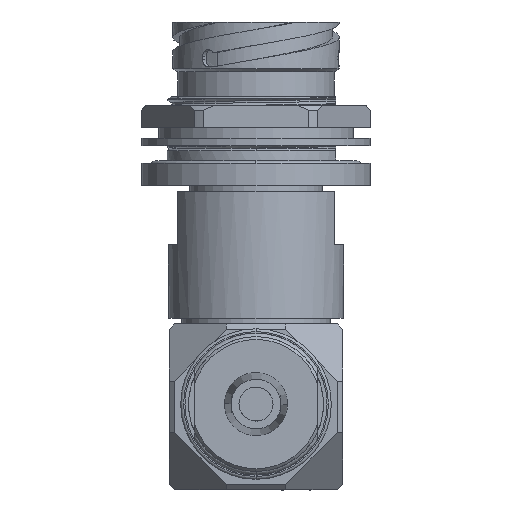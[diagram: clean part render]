
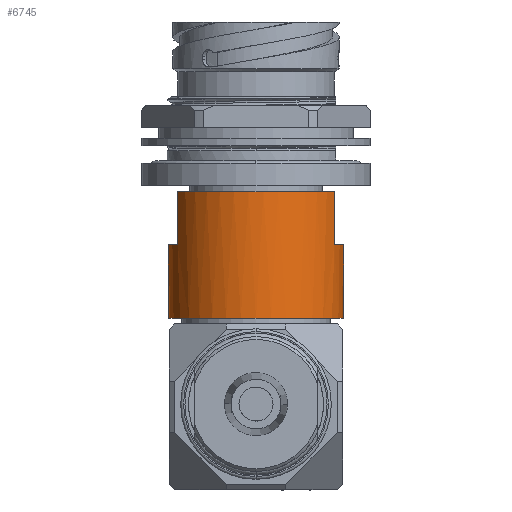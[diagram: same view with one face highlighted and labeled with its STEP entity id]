
A CAD part, front view. The second image highlights one B-rep face of the part: STEP entity #6745.
In plain terms, the highlighted cylindrical face has radius 15.684 mm (diameter 31.369 mm), a partial arc.
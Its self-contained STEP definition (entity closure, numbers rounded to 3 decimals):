
#357 = VERTEX_POINT ( 'NONE', #5871 ) ;
#393 = ORIENTED_EDGE ( 'NONE', *, *, #7592, .F. ) ;
#572 = AXIS2_PLACEMENT_3D ( 'NONE', #19090, #3402, #11187 ) ;
#676 = AXIS2_PLACEMENT_3D ( 'NONE', #3426, #17195, #9546 ) ;
#901 = CARTESIAN_POINT ( 'NONE',  ( -15.685, 0., -39.853 ) ) ;
#1090 = CIRCLE ( 'NONE', #9216, 15.684 ) ;
#1147 = LINE ( 'NONE', #8920, #24555 ) ;
#1453 = AXIS2_PLACEMENT_3D ( 'NONE', #5831, #15145, #21382 ) ;
#1471 = CIRCLE ( 'NONE', #2691, 15.685 ) ;
#2691 = AXIS2_PLACEMENT_3D ( 'NONE', #12306, #6324, #21869 ) ;
#3034 = CIRCLE ( 'NONE', #572, 15.685 ) ;
#3321 = EDGE_CURVE ( 'NONE', #18451, #9105, #3034, .T. ) ;
#3402 = DIRECTION ( 'NONE',  ( 0., 0., -1. ) ) ;
#3426 = CARTESIAN_POINT ( 'NONE',  ( 0., 0., -39.853 ) ) ;
#4288 = VECTOR ( 'NONE', #21531, 1000. ) ;
#4345 = CIRCLE ( 'NONE', #676, 15.685 ) ;
#4358 = ORIENTED_EDGE ( 'NONE', *, *, #9264, .F. ) ;
#5500 = CARTESIAN_POINT ( 'NONE',  ( -15.685, 0., -30.328 ) ) ;
#5514 = EDGE_CURVE ( 'NONE', #15330, #15980, #16060, .T. ) ;
#5567 = VECTOR ( 'NONE', #15445, 1000. ) ;
#5831 = CARTESIAN_POINT ( 'NONE',  ( 0., 0., -30.328 ) ) ;
#5871 = CARTESIAN_POINT ( 'NONE',  ( -14.033, -7.005, -39.853 ) ) ;
#6010 = LINE ( 'NONE', #5500, #5567 ) ;
#6228 = CARTESIAN_POINT ( 'NONE',  ( 14.033, -7.005, -30.328 ) ) ;
#6324 = DIRECTION ( 'NONE',  ( 0., 0., 1. ) ) ;
#6724 = ORIENTED_EDGE ( 'NONE', *, *, #9581, .T. ) ;
#6745 = ADVANCED_FACE ( 'NONE', ( #15276 ), #25203, .T. ) ;
#6965 = ORIENTED_EDGE ( 'NONE', *, *, #9295, .F. ) ;
#7298 = CARTESIAN_POINT ( 'NONE',  ( 14.033, -7.005, -39.853 ) ) ;
#7592 = EDGE_CURVE ( 'NONE', #19291, #15330, #1471, .T. ) ;
#8145 = CARTESIAN_POINT ( 'NONE',  ( 15.684, 0., -30.328 ) ) ;
#8920 = CARTESIAN_POINT ( 'NONE',  ( 14.033, -7.005, -30.328 ) ) ;
#9105 = VERTEX_POINT ( 'NONE', #14669 ) ;
#9216 = AXIS2_PLACEMENT_3D ( 'NONE', #9793, #17585, #18989 ) ;
#9264 = EDGE_CURVE ( 'NONE', #15980, #12016, #1090, .T. ) ;
#9295 = EDGE_CURVE ( 'NONE', #15278, #357, #4345, .T. ) ;
#9546 = DIRECTION ( 'NONE',  ( 0., 1., 0. ) ) ;
#9581 = EDGE_CURVE ( 'NONE', #15278, #12016, #6010, .T. ) ;
#9793 = CARTESIAN_POINT ( 'NONE',  ( 0., 0., -53.01 ) ) ;
#11187 = DIRECTION ( 'NONE',  ( 1., 0., 0. ) ) ;
#12016 = VERTEX_POINT ( 'NONE', #12271 ) ;
#12271 = CARTESIAN_POINT ( 'NONE',  ( -15.684, 0., -53.01 ) ) ;
#12306 = CARTESIAN_POINT ( 'NONE',  ( 0., 0., -39.853 ) ) ;
#13838 = CARTESIAN_POINT ( 'NONE',  ( 15.684, 0., -53.01 ) ) ;
#14060 = ORIENTED_EDGE ( 'NONE', *, *, #5514, .F. ) ;
#14611 = EDGE_CURVE ( 'NONE', #357, #9105, #18201, .T. ) ;
#14669 = CARTESIAN_POINT ( 'NONE',  ( -14.034, -7.005, -30.328 ) ) ;
#15145 = DIRECTION ( 'NONE',  ( 0., 0., -1. ) ) ;
#15276 = FACE_OUTER_BOUND ( 'NONE', #16370, .T. ) ;
#15278 = VERTEX_POINT ( 'NONE', #901 ) ;
#15330 = VERTEX_POINT ( 'NONE', #18768 ) ;
#15445 = DIRECTION ( 'NONE',  ( 0., 0., -1. ) ) ;
#15980 = VERTEX_POINT ( 'NONE', #13838 ) ;
#16060 = LINE ( 'NONE', #8145, #4288 ) ;
#16370 = EDGE_LOOP ( 'NONE', ( #6965, #6724, #4358, #14060, #393, #24647, #24485, #21653 ) ) ;
#17195 = DIRECTION ( 'NONE',  ( 0., 0., 1. ) ) ;
#17585 = DIRECTION ( 'NONE',  ( 0., 0., -1. ) ) ;
#17827 = DIRECTION ( 'NONE',  ( 0., 0., 1. ) ) ;
#18201 = LINE ( 'NONE', #19842, #22070 ) ;
#18451 = VERTEX_POINT ( 'NONE', #6228 ) ;
#18768 = CARTESIAN_POINT ( 'NONE',  ( 15.685, 0., -39.853 ) ) ;
#18989 = DIRECTION ( 'NONE',  ( 1., 0., 0. ) ) ;
#19090 = CARTESIAN_POINT ( 'NONE',  ( 0., 0., -30.328 ) ) ;
#19291 = VERTEX_POINT ( 'NONE', #7298 ) ;
#19842 = CARTESIAN_POINT ( 'NONE',  ( -14.033, -7.005, -30.328 ) ) ;
#20643 = DIRECTION ( 'NONE',  ( 0., 0., -1. ) ) ;
#21382 = DIRECTION ( 'NONE',  ( 1., 0., 0. ) ) ;
#21531 = DIRECTION ( 'NONE',  ( 0., 0., -1. ) ) ;
#21653 = ORIENTED_EDGE ( 'NONE', *, *, #14611, .F. ) ;
#21869 = DIRECTION ( 'NONE',  ( 1., 0., 0. ) ) ;
#21905 = EDGE_CURVE ( 'NONE', #18451, #19291, #1147, .T. ) ;
#22070 = VECTOR ( 'NONE', #17827, 1000. ) ;
#24485 = ORIENTED_EDGE ( 'NONE', *, *, #3321, .T. ) ;
#24555 = VECTOR ( 'NONE', #20643, 1000. ) ;
#24647 = ORIENTED_EDGE ( 'NONE', *, *, #21905, .F. ) ;
#25203 = CYLINDRICAL_SURFACE ( 'NONE', #1453, 15.685 ) ;
